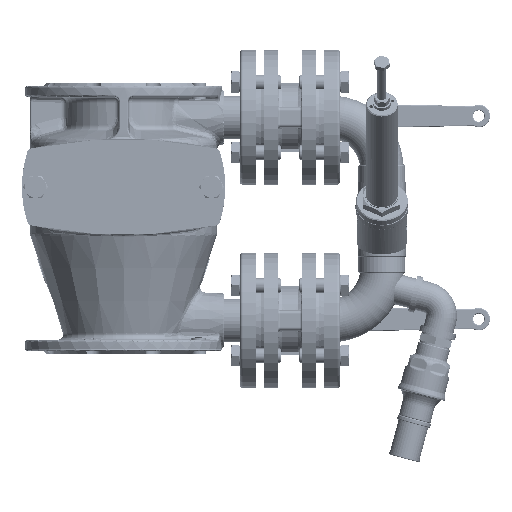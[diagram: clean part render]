
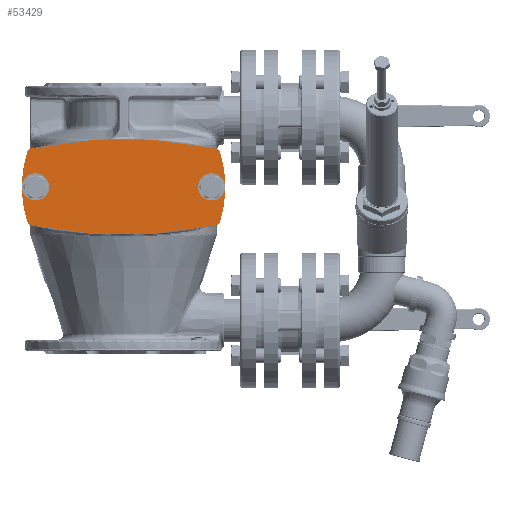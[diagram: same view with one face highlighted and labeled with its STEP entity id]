
A CAD part, left-side view. The second image highlights one B-rep face of the part: STEP entity #53429.
In plain terms, the highlighted planar face has unit normal (-1, 0, 0).
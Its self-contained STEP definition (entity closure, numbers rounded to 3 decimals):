
#53299=CARTESIAN_POINT('',(-137.5,-112.5,0.0));
#53300=VERTEX_POINT('',#53299);
#53301=CARTESIAN_POINT('',(-137.5,-97.5,0.0));
#53302=DIRECTION('',(1.0,0.0,0.0));
#53303=DIRECTION('',(0.0,1.0,0.0));
#53304=AXIS2_PLACEMENT_3D('',#53301,#53302,#53303);
#53305=CIRCLE('',#53304,15.0);
#53306=EDGE_CURVE('',#53300,#53300,#53305,.T.);
#53326=CARTESIAN_POINT('',(-137.5,0.0,0.0));
#53327=DIRECTION('',(1.0,0.0,0.0));
#53328=DIRECTION('',(0.0,-1.0,0.0));
#53329=AXIS2_PLACEMENT_3D('',#53326,#53327,#53328);
#53330=PLANE('',#53329);
#53331=CARTESIAN_POINT('',(-137.5,106.631,-38.62));
#53332=VERTEX_POINT('',#53331);
#53333=CARTESIAN_POINT('',(-137.5,102.098,-42.717));
#53334=VERTEX_POINT('',#53333);
#53335=CARTESIAN_POINT('',(-137.5,100.902,-36.837));
#53336=DIRECTION('',(-1.0,0.0,0.0));
#53337=DIRECTION('',(0.0,0.955,-0.297));
#53338=AXIS2_PLACEMENT_3D('',#53335,#53336,#53337);
#53339=CIRCLE('',#53338,6.0);
#53340=EDGE_CURVE('',#53332,#53334,#53339,.T.);
#53341=ORIENTED_EDGE('',*,*,#53340,.T.);
#53342=CARTESIAN_POINT('',(-137.5,-102.098,-42.717));
#53343=VERTEX_POINT('',#53342);
#53344=CARTESIAN_POINT('',(-137.5,0.0,459.));
#53345=DIRECTION('',(1.0,0.0,0.0));
#53346=DIRECTION('',(0.0,-0.199,-0.98));
#53347=AXIS2_PLACEMENT_3D('',#53344,#53345,#53346);
#53348=CIRCLE('',#53347,512.);
#53349=EDGE_CURVE('',#53343,#53334,#53348,.T.);
#53350=ORIENTED_EDGE('',*,*,#53349,.F.);
#53351=CARTESIAN_POINT('',(-137.5,-106.631,-38.62));
#53352=VERTEX_POINT('',#53351);
#53353=CARTESIAN_POINT('',(-137.5,-100.902,-36.837));
#53354=DIRECTION('',(-1.0,0.0,0.0));
#53355=DIRECTION('',(0.0,-0.199,-0.98));
#53356=AXIS2_PLACEMENT_3D('',#53353,#53354,#53355);
#53357=CIRCLE('',#53356,6.);
#53358=EDGE_CURVE('',#53343,#53352,#53357,.T.);
#53359=ORIENTED_EDGE('',*,*,#53358,.T.);
#53360=CARTESIAN_POINT('',(-137.5,17.5,0.0));
#53361=DIRECTION('',(1.0,0.0,0.0));
#53362=DIRECTION('',(0.0,-0.955,0.297));
#53363=AXIS2_PLACEMENT_3D('',#53360,#53361,#53362);
#53364=CIRCLE('',#53363,130.0);
#53365=EDGE_CURVE('',#53300,#53352,#53364,.T.);
#53366=ORIENTED_EDGE('',*,*,#53365,.F.);
#53367=ORIENTED_EDGE('',*,*,#53306,.T.);
#53368=CARTESIAN_POINT('',(-137.5,-106.631,38.62));
#53369=VERTEX_POINT('',#53368);
#53370=CARTESIAN_POINT('',(-137.5,17.5,0.0));
#53371=DIRECTION('',(1.0,0.0,0.0));
#53372=DIRECTION('',(0.0,-0.955,0.297));
#53373=AXIS2_PLACEMENT_3D('',#53370,#53371,#53372);
#53374=CIRCLE('',#53373,130.0);
#53375=EDGE_CURVE('',#53369,#53300,#53374,.T.);
#53376=ORIENTED_EDGE('',*,*,#53375,.F.);
#53377=CARTESIAN_POINT('',(-137.5,-102.098,42.717));
#53378=VERTEX_POINT('',#53377);
#53379=CARTESIAN_POINT('',(-137.5,-100.902,36.837));
#53380=DIRECTION('',(-1.0,0.0,0.0));
#53381=DIRECTION('',(0.0,-0.955,0.297));
#53382=AXIS2_PLACEMENT_3D('',#53379,#53380,#53381);
#53383=CIRCLE('',#53382,6.0);
#53384=EDGE_CURVE('',#53369,#53378,#53383,.T.);
#53385=ORIENTED_EDGE('',*,*,#53384,.T.);
#53386=CARTESIAN_POINT('',(-137.5,102.098,42.717));
#53387=VERTEX_POINT('',#53386);
#53388=CARTESIAN_POINT('',(-137.5,0.0,-459.));
#53389=DIRECTION('',(1.0,0.0,0.0));
#53390=DIRECTION('',(0.0,0.199,0.98));
#53391=AXIS2_PLACEMENT_3D('',#53388,#53389,#53390);
#53392=CIRCLE('',#53391,512.);
#53393=EDGE_CURVE('',#53387,#53378,#53392,.T.);
#53394=ORIENTED_EDGE('',*,*,#53393,.F.);
#53395=CARTESIAN_POINT('',(-137.5,106.631,38.62));
#53396=VERTEX_POINT('',#53395);
#53397=CARTESIAN_POINT('',(-137.5,100.902,36.837));
#53398=DIRECTION('',(-1.0,0.0,0.0));
#53399=DIRECTION('',(0.0,0.199,0.98));
#53400=AXIS2_PLACEMENT_3D('',#53397,#53398,#53399);
#53401=CIRCLE('',#53400,6.);
#53402=EDGE_CURVE('',#53387,#53396,#53401,.T.);
#53403=ORIENTED_EDGE('',*,*,#53402,.T.);
#53404=CARTESIAN_POINT('',(-137.5,112.5,0.0));
#53405=VERTEX_POINT('',#53404);
#53406=CARTESIAN_POINT('',(-137.5,-17.5,0.0));
#53407=DIRECTION('',(1.0,0.0,0.0));
#53408=DIRECTION('',(0.0,0.955,-0.297));
#53409=AXIS2_PLACEMENT_3D('',#53406,#53407,#53408);
#53410=CIRCLE('',#53409,130.0);
#53411=EDGE_CURVE('',#53405,#53396,#53410,.T.);
#53412=ORIENTED_EDGE('',*,*,#53411,.F.);
#53413=CARTESIAN_POINT('',(-137.5,97.5,0.0));
#53414=DIRECTION('',(1.0,0.0,0.0));
#53415=DIRECTION('',(0.0,1.0,0.0));
#53416=AXIS2_PLACEMENT_3D('',#53413,#53414,#53415);
#53417=CIRCLE('',#53416,15.0);
#53418=EDGE_CURVE('',#53405,#53405,#53417,.T.);
#53419=ORIENTED_EDGE('',*,*,#53418,.T.);
#53420=CARTESIAN_POINT('',(-137.5,-17.5,0.0));
#53421=DIRECTION('',(1.0,0.0,0.0));
#53422=DIRECTION('',(0.0,0.955,-0.297));
#53423=AXIS2_PLACEMENT_3D('',#53420,#53421,#53422);
#53424=CIRCLE('',#53423,130.0);
#53425=EDGE_CURVE('',#53332,#53405,#53424,.T.);
#53426=ORIENTED_EDGE('',*,*,#53425,.F.);
#53427=EDGE_LOOP('',(#53341,#53350,#53359,#53366,#53367,#53376,#53385,#53394,#53403,#53412,#53419,#53426));
#53428=FACE_OUTER_BOUND('',#53427,.T.);
#53429=ADVANCED_FACE('',(#53428),#53330,.F.);
